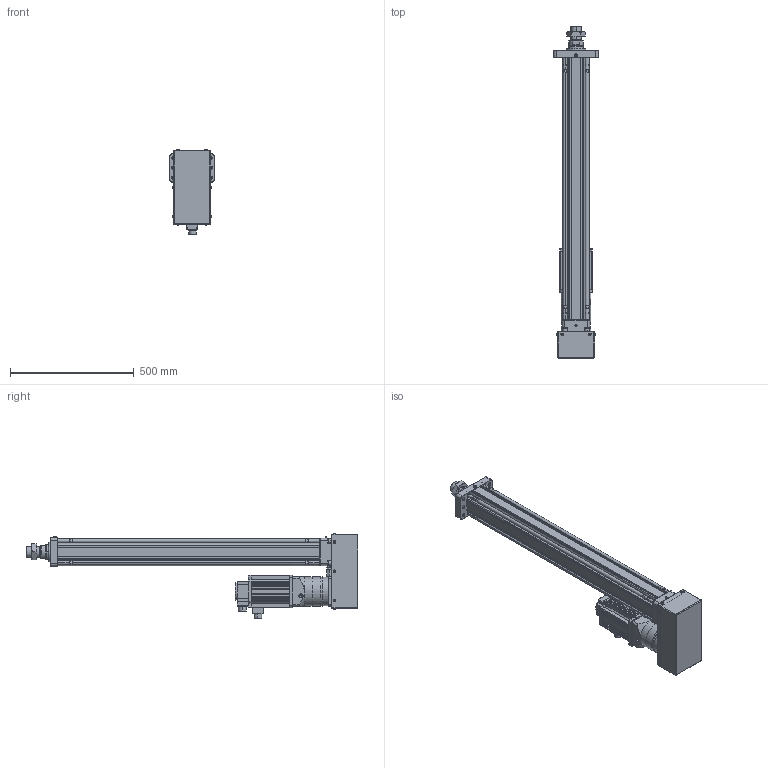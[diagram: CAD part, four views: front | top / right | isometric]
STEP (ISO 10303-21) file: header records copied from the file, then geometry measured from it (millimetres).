
FILE_DESCRIPTION((''),'2;1');
FILE_NAME('HEB100-100-D_ASM','2020-09-09T',('ASUS20200'),(''),'CREO PARAMETRIC BY PTC INC, 2014190','CREO PARAMETRIC BY PTC INC, 2014190','');
FILE_SCHEMA(('CONFIG_CONTROL_DESIGN'));
Length unit declared in the file: millimetre
Products named in the file (35): HEB100-D-P-001-X1; HEB100-D-P-002-X1; HEB100-D-P-008-X1; HEB100-D-P-003-X1; TD-12; SLM-01; YZ-M6X1; HEB100-D-P-004-X1; HEB100-D-P-005-X1; LM-M42X2; M12X45; M12X60; HEB100-100-D-P_ASM; HEB100-P-010-X1-160N; HEB125-P-009-X1-160N; BYT-M6X12; JM-M10-40; __2_1__1; __-__16_1; ______9_1; PLF120___22-58-110-6-4-9-145__1_ASM; 130_; 130___; 130__2; 130___15_2500; 130__; __2; __1; 130____-769_ASM; 130____-6072; SMA-382K25-FJ_1_ASM; SMA-382K25-FJ_ASM; M12X1_75-18; M12X1_75-9; HEB100-100-D_ASM
Assembly tree (59 placements, depth 5):
  HEB100-100-D_ASM
    HEB100-100-D-P_ASM
      HEB100-D-P-001-X1
      HEB100-D-P-002-X1
      HEB100-D-P-008-X1  x4
      HEB100-D-P-003-X1
      TD-12  x8
      SLM-01
      YZ-M6X1
      HEB100-D-P-004-X1
      HEB100-D-P-005-X1
      LM-M42X2
      M12X45  x4
      M12X60  x4
    HEB100-P-010-X1-160N
    HEB125-P-009-X1-160N
    BYT-M6X12  x10
    JM-M10-40
    PLF120___22-58-110-6-4-9-145__1_ASM
      __2_1__1
      __-__16_1
      ______9_1
    SMA-382K25-FJ_ASM
      SMA-382K25-FJ_1_ASM
        130_
        130___
        130__2
        130___15_2500
        130__
        130____-769_ASM
          __2
          __1
        130____-6072
    M12X1_75-18
    M12X1_75-9
Bounding box: 180 x 1342 x 344.74 mm (x, y, z)
Volume: 9853446.6 mm3; surface area: 2564700.3 mm2
Topology: 54 solids, 86 shells, 2740 faces, 6569 edges, 4121 vertices
Faces by surface type: plane 1242, cylinder 828, cone 526, torus 108, bspline 22, sphere 10, extrusion 4
Entity records: 66312 total; most frequent: CARTESIAN_POINT 12806, DIRECTION 11604, ORIENTED_EDGE 10450, EDGE_CURVE 5277, AXIS2_PLACEMENT_3D 4295, VERTEX_POINT 3351, VECTOR 3014, LINE 3010
